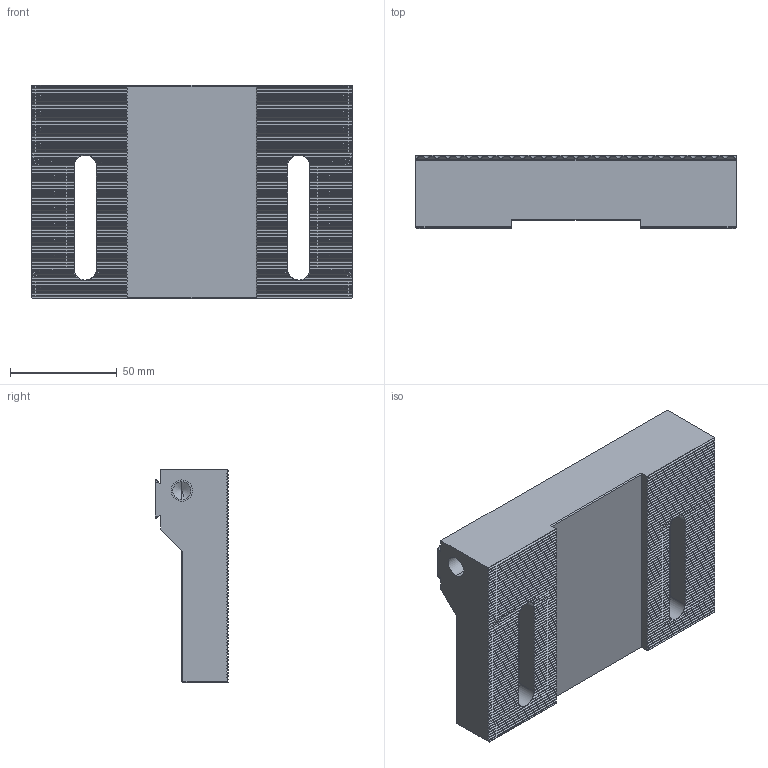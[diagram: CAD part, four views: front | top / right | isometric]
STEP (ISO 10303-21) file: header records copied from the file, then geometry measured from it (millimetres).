
FILE_DESCRIPTION (( 'STEP AP203' ), '1' );
FILE_NAME ('05-0162.STEP', '2021-09-14T23:04:55', ( '' ), ( '' ), 'SwSTEP 2.0', 'SolidWorks 2020', '' );
FILE_SCHEMA (( 'CONFIG_CONTROL_DESIGN' ));
Length unit declared in the file: millimetre
Products named in the file (1): 05-0162
Bounding box: 150 x 34.5 x 100 mm (x, y, z)
Volume: 317781.7 mm3; surface area: 55722.4 mm2
Topology: 1 solids, 1 shells, 1289 faces, 3833 edges, 2544 vertices
Faces by surface type: plane 1137, cylinder 112, cone 40
Entity records: 42569 total; most frequent: CARTESIAN_POINT 8316, ORIENTED_EDGE 7658, DIRECTION 6389, EDGE_CURVE 3829, LINE 3419, VECTOR 3419, VERTEX_POINT 2544, AXIS2_PLACEMENT_3D 1485
